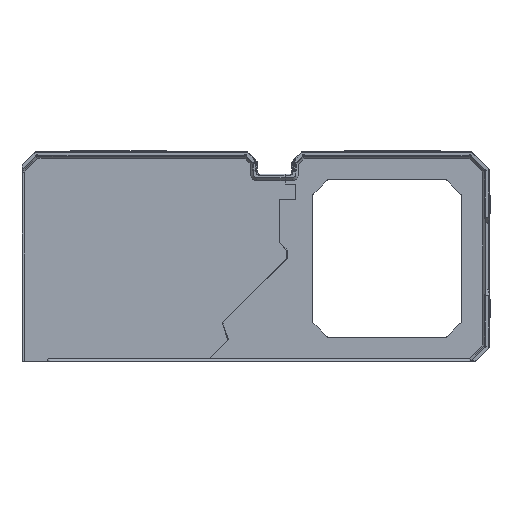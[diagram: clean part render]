
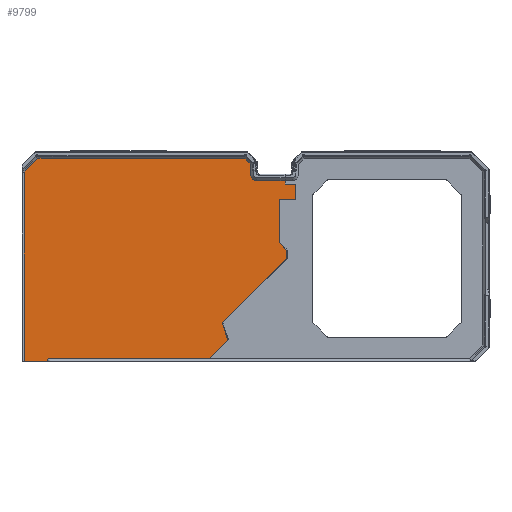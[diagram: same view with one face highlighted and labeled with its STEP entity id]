
A CAD part, top view. The second image highlights one B-rep face of the part: STEP entity #9799.
In plain terms, the highlighted planar face has unit normal (0, 0, 1).
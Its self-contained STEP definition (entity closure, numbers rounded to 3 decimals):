
#307=DIRECTION('',(0.,1.,0.));
#308=VECTOR('',#307,8.084);
#309=CARTESIAN_POINT('',(146.499,86.816,-4.));
#310=LINE('',#309,#308);
#315=DIRECTION('',(-0.707,-0.707,0.));
#316=VECTOR('',#315,14.16);
#317=CARTESIAN_POINT('',(110.331,11.23,-4.));
#318=LINE('',#317,#316);
#319=DIRECTION('',(-1.,0.,0.));
#320=VECTOR('',#319,85.829);
#321=CARTESIAN_POINT('',(100.319,1.217,-4.));
#322=LINE('',#321,#320);
#323=CARTESIAN_POINT('',(14.49,1.217,-4.));
#324=CARTESIAN_POINT('',(14.254,1.217,-4.));
#325=CARTESIAN_POINT('',(13.926,1.074,-4.));
#326=CARTESIAN_POINT('',(13.783,0.746,-4.));
#327=CARTESIAN_POINT('',(13.783,0.51,-4.));
#329=DIRECTION('',(0.,-1.,0.));
#330=VECTOR('',#329,0.51);
#331=CARTESIAN_POINT('',(13.783,0.51,-4.));
#332=LINE('',#331,#330);
#333=CARTESIAN_POINT('',(1.217,100.896,-4.));
#334=CARTESIAN_POINT('',(1.217,101.296,-4.));
#335=CARTESIAN_POINT('',(1.359,101.637,-4.));
#336=CARTESIAN_POINT('',(1.641,101.92,-4.));
#338=DIRECTION('',(0.707,0.707,0.));
#339=VECTOR('',#338,9.106);
#340=CARTESIAN_POINT('',(1.641,101.92,-4.));
#341=LINE('',#340,#339);
#342=CARTESIAN_POINT('',(8.08,108.359,-4.));
#343=CARTESIAN_POINT('',(8.363,108.641,-4.));
#344=CARTESIAN_POINT('',(8.704,108.783,-4.));
#345=CARTESIAN_POINT('',(9.104,108.783,-4.));
#347=DIRECTION('',(1.,0.,0.));
#348=VECTOR('',#347,109.592);
#349=CARTESIAN_POINT('',(9.104,108.783,-4.));
#350=LINE('',#349,#348);
#351=CARTESIAN_POINT('',(118.696,108.783,-4.));
#352=CARTESIAN_POINT('',(119.096,108.783,-4.));
#353=CARTESIAN_POINT('',(119.437,108.641,-4.));
#354=CARTESIAN_POINT('',(119.72,108.359,-4.));
#356=DIRECTION('',(0.707,-0.707,0.));
#357=VECTOR('',#356,3.507);
#358=CARTESIAN_POINT('',(119.72,108.359,-4.));
#359=LINE('',#358,#357);
#360=CARTESIAN_POINT('',(122.2,105.879,-4.));
#361=CARTESIAN_POINT('',(122.455,105.624,-4.));
#362=CARTESIAN_POINT('',(122.583,105.315,-4.));
#363=CARTESIAN_POINT('',(122.583,104.954,-4.));
#365=DIRECTION('',(0.,-1.,0.));
#366=VECTOR('',#365,4.954);
#367=CARTESIAN_POINT('',(122.583,104.954,-4.));
#368=LINE('',#367,#366);
#369=CARTESIAN_POINT('',(125.8,100.,-4.));
#370=DIRECTION('',(0.,0.,1.));
#371=DIRECTION('',(-1.,0.,0.));
#372=AXIS2_PLACEMENT_3D('',#369,#370,#371);
#374=DIRECTION('',(1.,0.,0.));
#375=VECTOR('',#374,15.1);
#376=CARTESIAN_POINT('',(125.8,96.783,-4.));
#377=LINE('',#376,#375);
#378=DIRECTION('',(0.,-1.,0.));
#379=VECTOR('',#378,1.883);
#380=CARTESIAN_POINT('',(140.9,96.783,-4.));
#381=LINE('',#380,#379);
#382=DIRECTION('',(-1.,0.,0.));
#383=VECTOR('',#382,5.6);
#384=CARTESIAN_POINT('',(146.499,94.9,-4.));
#385=LINE('',#384,#383);
#386=DIRECTION('',(-1.,0.,0.));
#387=VECTOR('',#386,8.8);
#388=CARTESIAN_POINT('',(146.499,86.816,-4.));
#389=LINE('',#388,#387);
#390=DIRECTION('',(0.,-1.,0.));
#391=VECTOR('',#390,23.378);
#392=CARTESIAN_POINT('',(137.699,86.816,-4.));
#393=LINE('',#392,#391);
#394=DIRECTION('',(0.707,-0.707,0.));
#395=VECTOR('',#394,5.657);
#396=CARTESIAN_POINT('',(137.699,63.439,-4.));
#397=LINE('',#396,#395);
#398=DIRECTION('',(0.,-1.,0.));
#399=VECTOR('',#398,4.396);
#400=CARTESIAN_POINT('',(141.699,59.439,-4.));
#401=LINE('',#400,#399);
#402=DIRECTION('',(-0.707,-0.707,0.));
#403=VECTOR('',#402,48.734);
#404=CARTESIAN_POINT('',(141.699,55.043,-4.));
#405=LINE('',#404,#403);
#406=DIRECTION('',(0.314,-0.949,0.));
#407=VECTOR('',#406,9.851);
#408=CARTESIAN_POINT('',(107.239,20.583,-4.));
#409=LINE('',#408,#407);
#430=DIRECTION('',(1.,0.,0.));
#431=VECTOR('',#430,12.566);
#432=CARTESIAN_POINT('',(1.217,0.,-4.));
#433=LINE('',#432,#431);
#7393=DIRECTION('',(0.,-1.,0.));
#7394=VECTOR('',#7393,100.896);
#7395=CARTESIAN_POINT('',(1.217,100.896,-4.));
#7396=LINE('',#7395,#7394);
#8292=CARTESIAN_POINT('',(1.217,0.,-4.));
#8293=VERTEX_POINT('',#8292);
#8294=CARTESIAN_POINT('',(13.783,0.,
-4.));
#8295=VERTEX_POINT('',#8294);
#8351=VERTEX_POINT('',#360);
#8352=VERTEX_POINT('',#363);
#8353=CARTESIAN_POINT('',(122.583,100.,-4.));
#8354=VERTEX_POINT('',#8353);
#8355=CARTESIAN_POINT('',(125.8,96.783,-4.));
#8356=VERTEX_POINT('',#8355);
#8357=VERTEX_POINT('',#323);
#8358=VERTEX_POINT('',#327);
#8359=CARTESIAN_POINT('',(1.217,100.896,-4.));
#8360=VERTEX_POINT('',#8359);
#8361=VERTEX_POINT('',#336);
#8362=CARTESIAN_POINT('',(8.08,108.359,-4.));
#8363=VERTEX_POINT('',#8362);
#8364=VERTEX_POINT('',#345);
#8365=CARTESIAN_POINT('',(118.696,108.783,-4.));
#8366=VERTEX_POINT('',#8365);
#8367=VERTEX_POINT('',#354);
#9364=CARTESIAN_POINT('',(146.499,94.9,-4.));
#9365=CARTESIAN_POINT('',(140.9,94.9,-4.));
#9366=VERTEX_POINT('',#9364);
#9367=VERTEX_POINT('',#9365);
#9368=CARTESIAN_POINT('',(100.319,1.217,-4.));
#9369=VERTEX_POINT('',#9368);
#9402=CARTESIAN_POINT('',(140.9,96.783,-4.));
#9403=VERTEX_POINT('',#9402);
#9428=CARTESIAN_POINT('',(146.499,86.816,-4.));
#9429=CARTESIAN_POINT('',(137.699,86.816,-4.));
#9430=VERTEX_POINT('',#9428);
#9431=VERTEX_POINT('',#9429);
#9432=CARTESIAN_POINT('',(137.699,63.439,-4.));
#9433=VERTEX_POINT('',#9432);
#9434=CARTESIAN_POINT('',(141.699,59.439,-4.));
#9435=VERTEX_POINT('',#9434);
#9436=CARTESIAN_POINT('',(141.699,55.043,-4.));
#9437=VERTEX_POINT('',#9436);
#9438=CARTESIAN_POINT('',(107.239,20.583,-4.));
#9439=VERTEX_POINT('',#9438);
#9440=CARTESIAN_POINT('',(110.331,11.23,-4.));
#9441=VERTEX_POINT('',#9440);
#9745=CARTESIAN_POINT('',(0.,0.,-4.));
#9746=DIRECTION('',(0.,0.,1.));
#9747=DIRECTION('',(1.,0.,0.));
#9748=AXIS2_PLACEMENT_3D('',#9745,#9746,#9747);
#9749=PLANE('',#9748);
#9750=ORIENTED_EDGE('',*,*,#9660,.T.);
#9752=ORIENTED_EDGE('',*,*,#9751,.T.);
#9754=ORIENTED_EDGE('',*,*,#9753,.T.);
#9756=ORIENTED_EDGE('',*,*,#9755,.T.);
#9758=ORIENTED_EDGE('',*,*,#9757,.F.);
#9760=ORIENTED_EDGE('',*,*,#9759,.F.);
#9762=ORIENTED_EDGE('',*,*,#9761,.T.);
#9764=ORIENTED_EDGE('',*,*,#9763,.T.);
#9766=ORIENTED_EDGE('',*,*,#9765,.T.);
#9768=ORIENTED_EDGE('',*,*,#9767,.T.);
#9770=ORIENTED_EDGE('',*,*,#9769,.T.);
#9772=ORIENTED_EDGE('',*,*,#9771,.T.);
#9774=ORIENTED_EDGE('',*,*,#9773,.T.);
#9776=ORIENTED_EDGE('',*,*,#9775,.T.);
#9778=ORIENTED_EDGE('',*,*,#9777,.T.);
#9780=ORIENTED_EDGE('',*,*,#9779,.T.);
#9782=ORIENTED_EDGE('',*,*,#9781,.T.);
#9784=ORIENTED_EDGE('',*,*,#9783,.F.);
#9785=ORIENTED_EDGE('',*,*,#9708,.F.);
#9786=ORIENTED_EDGE('',*,*,#9736,.T.);
#9788=ORIENTED_EDGE('',*,*,#9787,.T.);
#9790=ORIENTED_EDGE('',*,*,#9789,.T.);
#9792=ORIENTED_EDGE('',*,*,#9791,.T.);
#9794=ORIENTED_EDGE('',*,*,#9793,.T.);
#9796=ORIENTED_EDGE('',*,*,#9795,.T.);
#9797=EDGE_LOOP('',(#9750,#9752,#9754,#9756,#9758,#9760,#9762,#9764,#9766,#9768,
#9770,#9772,#9774,#9776,#9778,#9780,#9782,#9784,#9785,#9786,#9788,#9790,#9792,
#9794,#9796));
#9798=FACE_OUTER_BOUND('',#9797,.F.);
#9799=ADVANCED_FACE('',(#9798),#9749,.T.);
#328=B_SPLINE_CURVE_WITH_KNOTS('',3,(#323,#324,#325,#326,#327),.UNSPECIFIED.,
.F.,.F.,(4,1,4),(0.,0.5,1.),.UNSPECIFIED.);
#337=B_SPLINE_CURVE_WITH_KNOTS('',3,(#333,#334,#335,#336),.UNSPECIFIED.,.F.,.F.,
(4,4),(0.,1.),.UNSPECIFIED.);
#346=B_SPLINE_CURVE_WITH_KNOTS('',3,(#342,#343,#344,#345),.UNSPECIFIED.,.F.,.F.,
(4,4),(0.,1.),.UNSPECIFIED.);
#355=B_SPLINE_CURVE_WITH_KNOTS('',3,(#351,#352,#353,#354),.UNSPECIFIED.,.F.,.F.,
(4,4),(0.,1.),.UNSPECIFIED.);
#364=B_SPLINE_CURVE_WITH_KNOTS('',3,(#360,#361,#362,#363),.UNSPECIFIED.,.F.,.F.,
(4,4),(0.,1.),.UNSPECIFIED.);
#373=CIRCLE('',#372,3.217);
#9660=EDGE_CURVE('',#9441,#9369,#318,.T.);
#9708=EDGE_CURVE('',#9430,#9366,#310,.T.);
#9736=EDGE_CURVE('',#9430,#9431,#389,.T.);
#9751=EDGE_CURVE('',#9369,#8357,#322,.T.);
#9753=EDGE_CURVE('',#8357,#8358,#328,.T.);
#9755=EDGE_CURVE('',#8358,#8295,#332,.T.);
#9757=EDGE_CURVE('',#8293,#8295,#433,.T.);
#9759=EDGE_CURVE('',#8360,#8293,#7396,.T.);
#9761=EDGE_CURVE('',#8360,#8361,#337,.T.);
#9763=EDGE_CURVE('',#8361,#8363,#341,.T.);
#9765=EDGE_CURVE('',#8363,#8364,#346,.T.);
#9767=EDGE_CURVE('',#8364,#8366,#350,.T.);
#9769=EDGE_CURVE('',#8366,#8367,#355,.T.);
#9771=EDGE_CURVE('',#8367,#8351,#359,.T.);
#9773=EDGE_CURVE('',#8351,#8352,#364,.T.);
#9775=EDGE_CURVE('',#8352,#8354,#368,.T.);
#9777=EDGE_CURVE('',#8354,#8356,#373,.T.);
#9779=EDGE_CURVE('',#8356,#9403,#377,.T.);
#9781=EDGE_CURVE('',#9403,#9367,#381,.T.);
#9783=EDGE_CURVE('',#9366,#9367,#385,.T.);
#9787=EDGE_CURVE('',#9431,#9433,#393,.T.);
#9789=EDGE_CURVE('',#9433,#9435,#397,.T.);
#9791=EDGE_CURVE('',#9435,#9437,#401,.T.);
#9793=EDGE_CURVE('',#9437,#9439,#405,.T.);
#9795=EDGE_CURVE('',#9439,#9441,#409,.T.);
